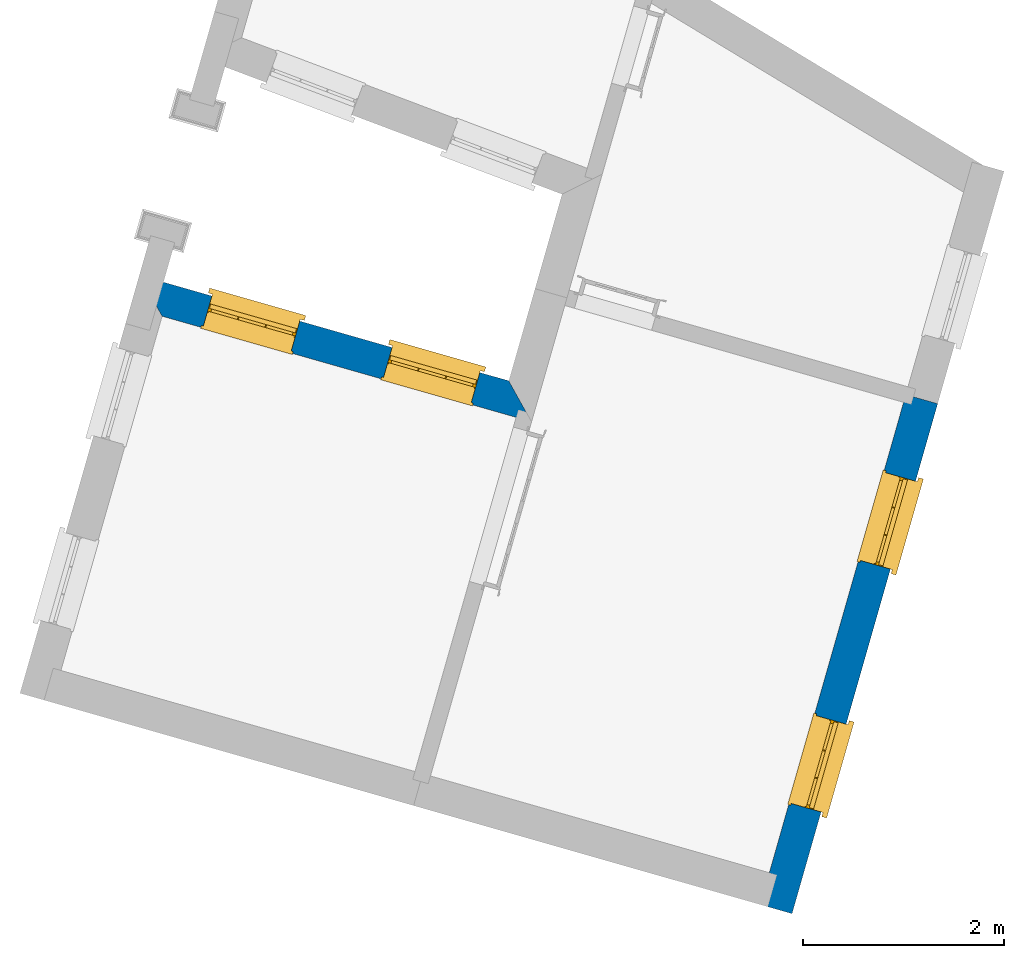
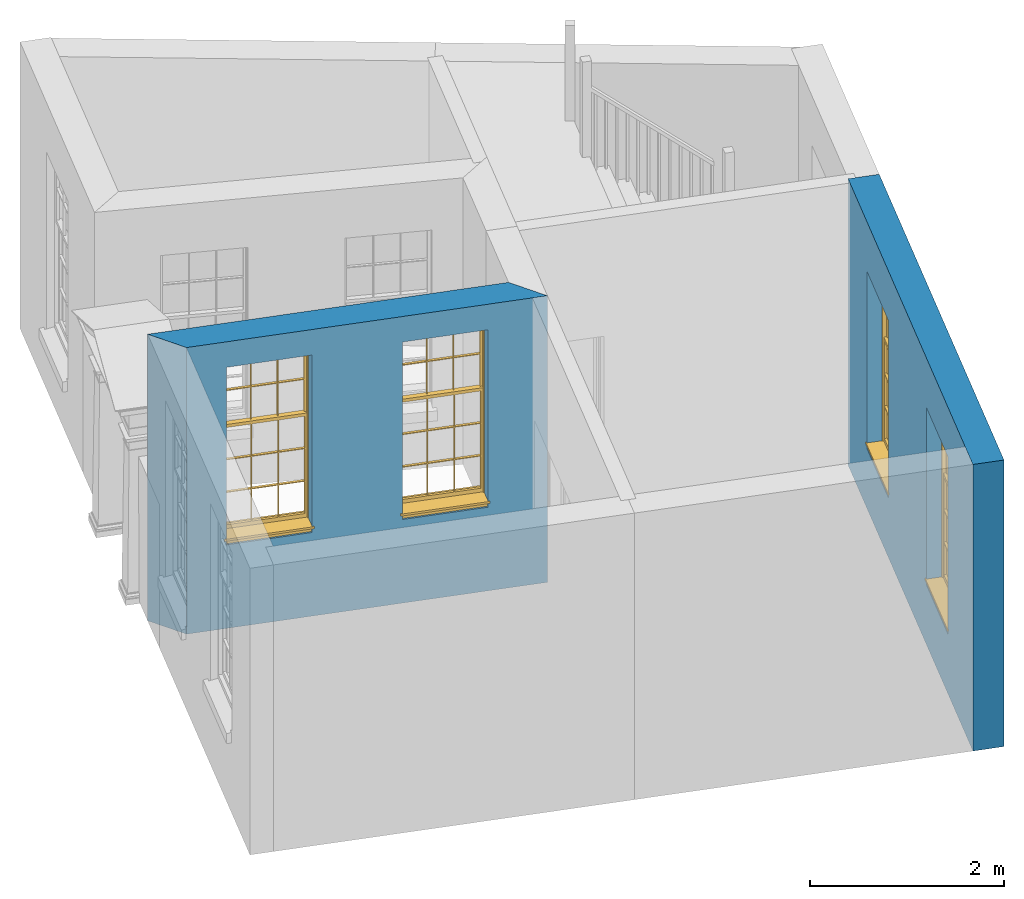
# One storey, part 3 of 6: 4 windows, 2 walls, 4 openings.
"""IFC4 building model written with IfcOpenShell, lengths in metres."""

from ifc_helpers import new_model, si_unit, frame, origin, origin_with_axes, place, context, subcontext, project, spatial, polyline, outline, extrude, faceted_brep, source, transform, mapped, material, layer, layer_set, layer_usage, type_object, type_shapes, element, fill, save


model = new_model("IFC4")

# Units and contexts
model_context = context("Model", 3, world=origin_with_axes())
body_context = subcontext(model_context, "Body", "Model", "MODEL_VIEW")
ifc_project = project(units=[si_unit("PLANEANGLEUNIT", "RADIAN"), si_unit("MASSUNIT", "GRAM", prefix="KILO"), si_unit("FORCEUNIT", "NEWTON", prefix="KILO"), si_unit("LENGTHUNIT", "METRE"), si_unit("AREAUNIT", "SQUARE_METRE"), si_unit("VOLUMEUNIT", "CUBIC_METRE")], contexts=[model_context, model_context])

# Sites, building, storey
site_1_placement = place(None, origin_with_axes())
site_1 = spatial("IfcSite", under=ifc_project, at=site_1_placement, Name="Tamar")
site_2_placement = place(site_1_placement, origin_with_axes())
site_2 = spatial("IfcSite", under=site_1, at=site_2_placement, Name="Site plot-19", CompositionType="ELEMENT")
building_placement = place(None, origin_with_axes())
building = spatial("IfcBuilding", under=site_2, at=building_placement, Name="Building plot-19", CompositionType="ELEMENT")
storey_placement = place(None, frame((0.0, 0.0, 26.8), z_axis=(0.0, 0.0, 1.0), x_axis=(1.0, 0.0, 0.0)))
storey = spatial("IfcBuildingStorey", under=building, at=storey_placement, Name="plot-19 0", CompositionType="ELEMENT", Elevation=26.8)

# Wall, openings, windows
ifc_material = material(Name="Masonry")
ifc_layer = layer(ifc_material, 0.33, ventilated=False)
ifc_layer_set = layer_set([ifc_layer], Name="exterior_0.08_0.25")
ifc_layer_usage = layer_usage(ifc_layer_set, "AXIS2", "POSITIVE", -0.25)
wall_type = type_object("IfcWallType", Name="exterior_0.08_0.25", PredefinedType="SOLIDWALL", material=ifc_layer_set)
wall_1_placement = place(storey_placement, frame((280.056584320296, 298.043987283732, 0.0), z_axis=(0.0, 0.0, 1.0), x_axis=(-0.961567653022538, 0.274568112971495, 0.0)))
wall_1 = element("IfcWall", 1, at=wall_1_placement, inside=storey, type_object=wall_type, material=ifc_layer_usage, Name="exterior", context=body_context, shape_type="SweptSolid", body=[
    extrude(outline(polyline([(-0.0799999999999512, 0.0800000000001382), (0.249999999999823, -0.250000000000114), (4.07875062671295, -0.250000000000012), (3.74875062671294, 0.0800000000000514), (-0.0799999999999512, 0.0800000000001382)])), origin_with_axes(), (0.0, 0.0, 1.0), 3.6),
])
opening_1_placement = place(wall_1_placement, frame((0.55000000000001, 0.0, 1.05)))
opening_1 = element("IfcOpeningElement", 2, at=opening_1_placement, cuts=wall_1, Name="My Opening", ObjectType="Opening", context=body_context, shape_type="SweptSolid", body=[
    extrude(outline(polyline([(0.0, -0.270000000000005), (0.910000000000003, -0.270000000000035), (0.910000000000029, 1.09999999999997), (2.57571741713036e-14, 1.1), (0.0, -0.270000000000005)])), origin_with_axes(), (0.0, 0.0, 1.0), 2.23),
])
opening_2_placement = place(wall_1_placement, frame((2.41656297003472, 0.0, 1.05)))
opening_2 = element("IfcOpeningElement", 3, at=opening_2_placement, cuts=wall_1, Name="My Opening", ObjectType="Opening", context=body_context, shape_type="SweptSolid", body=[
    extrude(outline(polyline([(0.0, -0.270000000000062), (0.910000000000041, -0.270000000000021), (0.910000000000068, 1.09999999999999), (2.57571741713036e-14, 1.09999999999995), (0.0, -0.270000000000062)])), origin_with_axes(), (0.0, 0.0, 1.0), 2.23),
])
window_type = type_object("IfcWindowType", Name="sash_big_taller", PartitioningType="DOUBLE_PANEL_HORIZONTAL", PredefinedType="NOTDEFINED")
shared_shape = source(origin(), body_context, "Body", "Brep", [
    faceted_brep([(0.033125, 0.145, 1.385209), (0.01, 0.145, 1.385209), (0.033125, 0.145, 1.786042), (0.876875, 0.145, 1.385209), (0.876875, 0.145, 1.786042), (0.9, 0.145, 1.385209), (0.876875, 0.145, 1.796042), (0.876875, 0.145, 2.196875), (0.9, 0.145, 2.22), (0.033125, 0.145, 2.196875), (0.033125, 0.145, 1.796042), (0.01, 0.145, 2.22), (0.876875, 0.115, 1.786042), (0.876875, 0.115, 1.385209), (0.9, 0.115, 1.347084), (0.033125, 0.115, 2.196875), (0.01, 0.115, 2.22), (0.033125, 0.115, 1.796042), (0.01, 0.115, 1.347084), (0.033125, 0.115, 1.385209), (0.033125, 0.115, 1.786042), (0.876875, 0.115, 2.196875), (0.876875, 0.115, 1.796042), (0.9, 0.115, 2.22), (0.033125, 0.145, 1.347084), (0.01, 0.145, 1.347084), (0.033125, 0.145, 0.94625), (0.876875, 0.145, 1.347084), (0.876875, 0.145, 0.94625), (0.9, 0.145, 1.347084), (0.876875, 0.145, 0.52625), (0.876875, 0.145, 0.125417), (0.9, 0.145, 0.077167), (0.033125, 0.145, 0.125417), (0.033125, 0.145, 0.52625), (0.01, 0.145, 0.077167), (-0.0425, 0.0, 0.01), (-0.0425, -0.05, 0.001667), (0.0, 0.0, 0.01), (0.9525, 0.0, 0.01), (0.91, 0.0, 0.01), (0.9525, -0.05, 0.001667), (-0.02, 0.33, 0.077167), (0.0, 0.33, 0.077167), (-0.02, 0.36, 0.077167), (0.0, 0.19, 0.077167), (0.01, 0.19, 0.077167), (0.91, 0.19, 0.077167), (0.91, 0.33, 0.077167), (0.9, 0.19, 0.077167), (0.93, 0.33, 0.077167), (0.93, 0.36, 0.077167), (0.01, 0.175, 1.385209), (0.9, 0.175, 1.385209), (0.876875, 0.175, 0.125417), (0.876875, 0.175, 0.52625), (0.9, 0.175, 0.077167), (0.876875, 0.175, 0.94625), (0.876875, 0.175, 1.347084), (0.033125, 0.175, 0.125417), (0.01, 0.175, 0.077167), (0.033125, 0.175, 0.52625), (0.033125, 0.175, 1.347084), (0.033125, 0.175, 0.94625), (-0.02, 0.33, 0.052167), (-0.02, 0.36, 0.052167), (0.93, 0.36, 0.052167), (0.93, 0.33, 0.052167), (0.91, 0.33, 0.052167), (0.0, 0.33, 0.052167), (0.91, 0.1, 0.026667), (0.0, 0.1, 0.026667), (-0.0425, -0.05, -0.123333), (0.9525, -0.05, -0.123333), (-0.0425, 0.0, -0.123333), (0.9525, 0.0, -0.123333), (0.01, 0.19, 2.22), (0.9, 0.19, 2.22), (0.0, 0.19, 2.23), (0.91, 0.19, 2.23), (0.01, 0.1, 0.077167), (0.9, 0.1, 0.077167), (0.592292, 0.145, 0.125417), (0.592292, 0.175, 0.125417), (0.317708, 0.175, 0.125417), (0.317708, 0.145, 0.125417), (0.592292, 0.145, 0.53625), (0.317708, 0.145, 0.53625), (0.317708, 0.145, 0.52625), (0.592292, 0.145, 0.52625), (0.592292, 0.175, 0.53625), (0.317708, 0.175, 0.53625), (0.592292, 0.115, 1.796042), (0.592292, 0.145, 1.796042), (0.317708, 0.145, 1.796042), (0.317708, 0.115, 1.796042), (0.317708, 0.115, 1.786042), (0.592292, 0.115, 1.786042), (0.317708, 0.145, 1.786042), (0.592292, 0.145, 1.786042), (0.602292, 0.115, 1.786042), (0.592292, 0.115, 1.385209), (0.602292, 0.115, 1.385209), (0.602292, 0.145, 1.385209), (0.592292, 0.145, 1.385209), (0.602292, 0.145, 1.786042), (0.876875, 0.145, 0.53625), (0.876875, 0.175, 0.53625), (0.602292, 0.175, 0.53625), (0.602292, 0.145, 0.53625), (0.317708, 0.175, 0.52625), (0.307708, 0.175, 0.125417), (0.307708, 0.175, 0.52625), (0.602292, 0.175, 0.52625), (0.602292, 0.175, 0.125417), (0.592292, 0.175, 0.52625), (0.307708, 0.175, 0.53625), (0.033125, 0.175, 0.53625), (0.317708, 0.175, 1.347084), (0.317708, 0.175, 0.94625), (0.307708, 0.175, 0.94625), (0.307708, 0.175, 1.347084), (0.602292, 0.175, 1.347084), (0.602292, 0.175, 0.94625), (0.592292, 0.175, 0.94625), (0.592292, 0.175, 1.347084), (0.307708, 0.145, 0.52625), (0.307708, 0.145, 0.125417), (0.307708, 0.145, 0.53625), (0.033125, 0.145, 0.53625), (0.307708, 0.145, 1.347084), (0.307708, 0.145, 0.94625), (0.592292, 0.145, 1.347084), (0.592292, 0.145, 0.94625), (0.317708, 0.145, 0.94625), (0.317708, 0.145, 1.347084), (0.602292, 0.145, 0.94625), (0.602292, 0.145, 1.347084), (0.602292, 0.145, 0.52625), (0.602292, 0.145, 0.125417), (0.307708, 0.115, 1.796042), (0.307708, 0.115, 1.786042), (0.307708, 0.115, 1.385209), (0.317708, 0.115, 1.385209), (0.317708, 0.115, 2.196875), (0.307708, 0.115, 2.196875), (0.602292, 0.115, 2.196875), (0.592292, 0.115, 2.196875), (0.602292, 0.115, 1.796042), (0.602292, 0.145, 1.796042), (0.307708, 0.145, 1.796042), (0.307708, 0.145, 2.196875), (0.317708, 0.145, 2.196875), (0.592292, 0.145, 2.196875), (0.602292, 0.145, 2.196875), (0.307708, 0.145, 1.786042), (0.317708, 0.145, 1.385209), (0.307708, 0.145, 1.385209), (0.876875, 0.175, 0.93625), (0.033125, 0.175, 0.93625), (0.033125, 0.145, 0.93625), (0.876875, 0.145, 0.93625), (0.91, 0.1, 2.23), (0.9, 0.1, 2.22), (0.01, 0.1, 2.22), (0.0, 0.1, 2.23), (0.91, 0.0, 0.0), (0.0, 0.0, 0.0), (0.91, 0.33, 0.0), (0.0, 0.33, 0.0), (0.317708, 0.145, 0.93625), (0.592292, 0.145, 0.93625), (0.317708, 0.175, 0.93625), (0.307708, 0.175, 0.93625), (0.602292, 0.175, 0.93625), (0.592292, 0.175, 0.93625), (0.307708, 0.145, 0.93625), (0.602292, 0.145, 0.93625)], [[[0, 1, 2]], [[3, 4, 5]], [[6, 7, 8]], [[9, 10, 11]], [[12, 13, 14]], [[15, 16, 17]], [[18, 19, 20]], [[21, 22, 23]], [[24, 25, 26]], [[27, 28, 29]], [[30, 31, 32]], [[33, 34, 35]], [[14, 27, 29]], [[25, 24, 18]], [[36, 37, 38]], [[39, 40, 41]], [[42, 43, 44]], [[45, 46, 43]], [[47, 48, 49]], [[50, 51, 48]], [[1, 0, 52]], [[5, 53, 3]], [[54, 55, 56]], [[57, 58, 53]], [[59, 60, 61]], [[62, 63, 52]], [[48, 43, 46, 49]], [[51, 44, 43, 48]], [[64, 42, 44, 65]], [[65, 44, 51, 66]], [[66, 51, 50, 67]], [[65, 66, 68, 69]], [[60, 56, 49, 46]], [[70, 71, 38, 40]], [[37, 41, 40, 38]], [[37, 72, 73, 41]], [[74, 75, 73, 72]], [[8, 11, 76, 77]], [[76, 78, 79, 77]], [[32, 35, 80, 81]], [[81, 80, 71, 70]], [[82, 83, 84, 85]], [[86, 87, 88, 89]], [[86, 90, 91, 87]], [[92, 93, 94, 95]], [[92, 95, 96, 97]], [[96, 98, 99, 97]], [[100, 97, 101, 102]], [[103, 104, 99, 105]], [[97, 99, 104, 101]], [[102, 103, 105, 100]], [[106, 107, 108, 109]], [[110, 84, 111, 112]], [[113, 114, 83, 115]], [[116, 112, 61, 117]], [[90, 115, 110, 91]], [[118, 119, 120, 121]], [[122, 123, 124, 125]], [[113, 108, 107, 55]], [[126, 112, 111, 127]], [[34, 61, 112, 126]], [[89, 115, 83, 82]], [[88, 110, 115, 89]], [[85, 84, 110, 88]], [[128, 116, 117, 129]], [[130, 121, 120, 131]], [[132, 125, 124, 133]], [[134, 119, 118, 135]], [[136, 123, 122, 137]], [[138, 113, 55, 30]], [[139, 114, 113, 138]], [[138, 30, 106, 109]], [[88, 126, 127, 85]], [[138, 89, 82, 139]], [[137, 132, 133, 136]], [[128, 129, 34, 126]], [[135, 130, 131, 134]], [[140, 17, 20, 141]], [[96, 141, 142, 143]], [[144, 145, 140, 95]], [[146, 147, 92, 148]], [[100, 12, 22, 148]], [[149, 6, 4, 105]], [[94, 150, 151, 152]], [[149, 93, 153, 154]], [[99, 98, 94, 93]], [[155, 2, 10, 150]], [[156, 157, 155, 98]], [[141, 155, 157, 142]], [[20, 2, 155, 141]], [[143, 156, 98, 96]], [[140, 150, 10, 17]], [[145, 151, 150, 140]], [[147, 153, 93, 92]], [[95, 94, 152, 144]], [[22, 6, 149, 148]], [[148, 149, 154, 146]], [[100, 105, 4, 12]], [[109, 86, 89, 138]], [[108, 113, 115, 90]], [[91, 110, 112, 116]], [[87, 128, 126, 88]], [[97, 100, 148, 92]], [[141, 96, 95, 140]], [[98, 155, 150, 94]], [[105, 99, 93, 149]], [[143, 101, 104, 156]], [[135, 118, 125, 132]], [[144, 152, 153, 147]], [[127, 111, 59, 33]], [[15, 9, 151, 145]], [[146, 154, 7, 21]], [[31, 54, 114, 139]], [[36, 74, 72, 37]], [[39, 41, 73, 75]], [[18, 14, 101, 143]], [[23, 16, 144, 147]], [[83, 56, 60, 84]], [[52, 53, 125, 118]], [[53, 52, 156, 104]], [[11, 8, 153, 152]], [[14, 18, 135, 132]], [[2, 1, 11, 10]], [[8, 5, 4, 6]], [[57, 53, 56, 158]], [[60, 52, 63, 159]], [[26, 25, 35, 160]], [[32, 29, 28, 161]], [[14, 23, 22, 12]], [[18, 20, 17, 16]], [[19, 0, 2, 20]], [[17, 10, 9, 15]], [[12, 4, 3, 13]], [[21, 7, 6, 22]], [[27, 58, 57, 28]], [[30, 55, 54, 31]], [[33, 59, 61, 34]], [[26, 63, 62, 24]], [[5, 8, 77, 53]], [[76, 11, 1, 52]], [[46, 45, 78, 76]], [[49, 77, 79, 47]], [[70, 162, 163, 81]], [[71, 80, 164, 165]], [[19, 142, 157, 0]], [[102, 13, 3, 103]], [[121, 130, 24, 62]], [[29, 32, 81, 14]], [[80, 35, 25, 18]], [[60, 46, 76, 52]], [[77, 49, 56, 53]], [[23, 14, 81, 163]], [[16, 164, 80, 18]], [[35, 85, 127]], [[127, 33, 35]], [[139, 82, 32]], [[32, 31, 139]], [[32, 82, 85, 35]], [[102, 101, 14]], [[14, 13, 102]], [[18, 143, 142]], [[142, 19, 18]], [[146, 21, 23]], [[23, 147, 146]], [[16, 15, 145]], [[145, 144, 16]], [[11, 152, 151]], [[151, 9, 11]], [[154, 153, 8]], [[8, 7, 154]], [[23, 163, 164, 16]], [[162, 165, 164, 163]], [[52, 118, 121]], [[121, 62, 52]], [[125, 53, 122]], [[58, 122, 53]], [[27, 137, 122, 58]], [[56, 83, 114]], [[114, 54, 56]], [[111, 84, 60]], [[60, 59, 111]], [[137, 27, 14]], [[14, 132, 137]], [[130, 135, 18]], [[18, 24, 130]], [[157, 156, 52]], [[52, 0, 157]], [[103, 3, 53]], [[53, 104, 103]], [[79, 78, 165, 162]], [[78, 45, 71, 165]], [[162, 70, 47, 79]], [[166, 75, 74, 167]], [[68, 66, 67]], [[48, 68, 67, 50]], [[69, 64, 65]], [[42, 64, 69, 43]], [[69, 68, 168, 169]], [[70, 68, 48, 47]], [[166, 168, 68, 70]], [[43, 69, 71, 45]], [[69, 169, 167, 71]], [[168, 166, 167, 169]], [[38, 167, 74, 36]], [[71, 167, 38]], [[39, 75, 166, 40]], [[40, 166, 70]], [[133, 134, 170, 171]], [[133, 124, 119, 134]], [[28, 57, 123, 136]], [[172, 91, 116, 173]], [[174, 108, 90, 175]], [[120, 173, 159, 63]], [[124, 175, 172, 119]], [[174, 123, 57, 158]], [[176, 173, 116, 128]], [[160, 159, 173, 176]], [[171, 175, 90, 86]], [[170, 172, 175, 171]], [[87, 91, 172, 170]], [[131, 120, 63, 26]], [[177, 174, 158, 161]], [[109, 108, 174, 177]], [[177, 161, 28, 136]], [[170, 176, 128, 87]], [[177, 171, 86, 109]], [[131, 26, 160, 176]], [[136, 133, 171, 177]], [[123, 174, 175, 124]], [[119, 172, 173, 120]], [[134, 131, 176, 170]], [[129, 117, 159, 160]], [[161, 158, 107, 106]], [[35, 34, 129]], [[35, 129, 160]], [[32, 106, 30]], [[32, 161, 106]], [[56, 55, 107]], [[56, 107, 158]], [[60, 117, 61]], [[60, 159, 117]]]),
])
type_shapes(window_type, [shared_shape])
window_1_placement = place(storey_placement, frame((279.601855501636, 298.454623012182, 1.05), z_axis=(0.0, 0.0, 1.0), x_axis=(-0.875026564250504, 0.24985698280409, 0.0)))
window_1 = element("IfcWindow", 4, at=window_1_placement, inside=storey, type_object=window_type, Name="kitchen outside window", OverallHeight=2.23, OverallWidth=0.91, context=body_context, shape_type="MappedRepresentation", body=[
    mapped(shared_shape, transform((0.0, 0.0, 0.0), scale=1.0)),
])
fill(opening_1, window_1)
window_2_placement = place(storey_placement, frame((277.807028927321, 298.967121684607, 1.05), z_axis=(0.0, 0.0, 1.0), x_axis=(-0.875026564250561, 0.249856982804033, 0.0)))
window_2 = element("IfcWindow", 5, at=window_2_placement, inside=storey, type_object=window_type, Name="kitchen outside window", OverallHeight=2.23, OverallWidth=0.91, context=body_context, shape_type="MappedRepresentation", body=[
    mapped(shared_shape, transform((0.0, 0.0, 0.0), scale=1.0)),
])
fill(opening_2, window_2)

wall_2_placement = place(storey_placement, frame((282.535048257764, 293.352843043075, 0.0), z_axis=(0.0, 0.0, 1.0), x_axis=(0.274568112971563, 0.961567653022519, 0.0)))
wall_2 = element("IfcWall", 6, at=wall_2_placement, inside=storey, type_object=wall_type, material=ifc_layer_usage, Name="exterior", context=body_context, shape_type="SweptSolid", body=[
    extrude(outline(polyline([(-0.249999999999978, 0.0799999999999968), (-0.249999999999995, -0.249999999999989), (5.03488060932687, -0.249999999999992), (5.03488060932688, 0.0799999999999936), (-0.249999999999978, 0.0799999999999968)])), origin_with_axes(), (0.0, 0.0, 1.0), 3.6),
])
opening_3_placement = place(wall_2_placement, frame((0.803720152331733, 0.0, 0.75)))
opening_3 = element("IfcOpeningElement", 7, at=opening_3_placement, cuts=wall_2, Name="My Opening", ObjectType="Opening", context=body_context, shape_type="SweptSolid", body=[
    extrude(outline(polyline([(0.0, -0.269999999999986), (0.910000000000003, -0.269999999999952), (0.910000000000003, 1.10000000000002), (1.11022302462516e-16, 1.09999999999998), (0.0, -0.269999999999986)])), origin_with_axes(), (0.0, 0.0, 1.0), 2.23),
])
opening_4_placement = place(wall_2_placement, frame((3.32116045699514, 0.0, 0.75)))
opening_4 = element("IfcOpeningElement", 8, at=opening_4_placement, cuts=wall_2, Name="My Opening", ObjectType="Opening", context=body_context, shape_type="SweptSolid", body=[
    extrude(outline(polyline([(0.0, -0.269999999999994), (0.910000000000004, -0.26999999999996), (0.910000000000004, 1.10000000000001), (4.44089209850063e-16, 1.09999999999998), (0.0, -0.269999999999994)])), origin_with_axes(), (0.0, 0.0, 1.0), 2.23),
])
window_3_placement = place(storey_placement, frame((283.015347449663, 294.051540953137, 0.75), z_axis=(0.0, 0.0, 1.0), x_axis=(0.24985698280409, 0.875026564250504, 0.0)))
window_3 = element("IfcWindow", 9, at=window_3_placement, inside=storey, type_object=window_type, Name="living street window", OverallHeight=2.23, OverallWidth=0.91, context=body_context, shape_type="MappedRepresentation", body=[
    mapped(shared_shape, transform((0.0, 0.0, 0.0), scale=1.0)),
])
fill(opening_3, window_3)
window_4_placement = place(storey_placement, frame((283.706556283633, 296.472230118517, 0.75), z_axis=(0.0, 0.0, 1.0), x_axis=(0.24985698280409, 0.875026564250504, 0.0)))
window_4 = element("IfcWindow", 10, at=window_4_placement, inside=storey, type_object=window_type, Name="living street window", OverallHeight=2.23, OverallWidth=0.91, context=body_context, shape_type="MappedRepresentation", body=[
    mapped(shared_shape, transform((0.0, 0.0, 0.0), scale=1.0)),
])
fill(opening_4, window_4)

save(model, "model.ifc")
